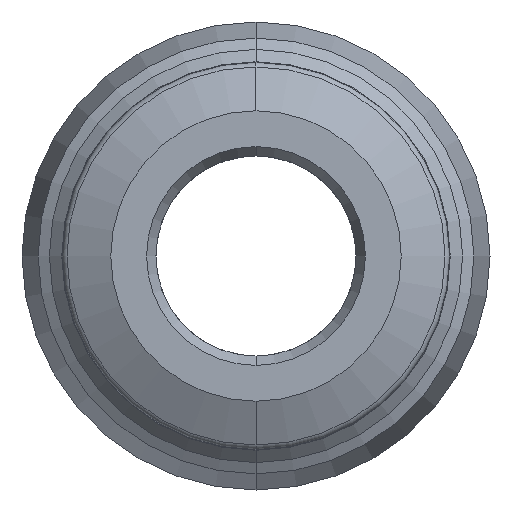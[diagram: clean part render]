
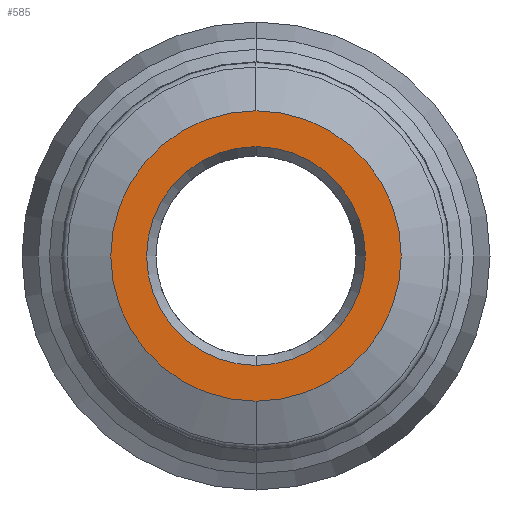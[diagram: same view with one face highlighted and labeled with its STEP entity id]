
A CAD part, front view. The second image highlights one B-rep face of the part: STEP entity #585.
In plain terms, the highlighted planar face has unit normal (0, -1, 0).
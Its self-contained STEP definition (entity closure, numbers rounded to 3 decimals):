
#6 = CARTESIAN_POINT ( 'NONE',  ( 0., -4.8, 3.389 ) ) ;
#45 = CARTESIAN_POINT ( 'NONE',  ( -4.499, -4.8, 0. ) ) ;
#109 = VERTEX_POINT ( 'NONE', #2973 ) ;
#277 = CARTESIAN_POINT ( 'NONE',  ( 0., -4.8, -3.389 ) ) ;
#576 = CIRCLE ( 'NONE', #916, 3.389 ) ;
#585 = ADVANCED_FACE ( 'NONE', ( #3486, #4354 ), #2231, .T. ) ;
#667 = EDGE_CURVE ( 'NONE', #1645, #2460, #576, .T. ) ;
#825 = ORIENTED_EDGE ( 'NONE', *, *, #1674, .T. ) ;
#909 = EDGE_LOOP ( 'NONE', ( #825, #936 ) ) ;
#910 = DIRECTION ( 'NONE',  ( 0., 0., 1. ) ) ;
#916 = AXIS2_PLACEMENT_3D ( 'NONE', #981, #1001, #1013 ) ;
#936 = ORIENTED_EDGE ( 'NONE', *, *, #667, .T. ) ;
#968 = DIRECTION ( 'NONE',  ( 0., -1., 0. ) ) ;
#981 = CARTESIAN_POINT ( 'NONE',  ( 0., -4.8, 0. ) ) ;
#1001 = DIRECTION ( 'NONE',  ( 0., 1., 0. ) ) ;
#1013 = DIRECTION ( 'NONE',  ( 0., 0., -1. ) ) ;
#1023 = CIRCLE ( 'NONE', #1602, 3.389 ) ;
#1144 = DIRECTION ( 'NONE',  ( 0., 0., -1. ) ) ;
#1342 = EDGE_LOOP ( 'NONE', ( #2838, #3973 ) ) ;
#1388 = VERTEX_POINT ( 'NONE', #2382 ) ;
#1407 = CIRCLE ( 'NONE', #2362, 4.499 ) ;
#1602 = AXIS2_PLACEMENT_3D ( 'NONE', #3250, #3930, #4140 ) ;
#1645 = VERTEX_POINT ( 'NONE', #277 ) ;
#1674 = EDGE_CURVE ( 'NONE', #2460, #1645, #1023, .T. ) ;
#2002 = EDGE_CURVE ( 'NONE', #109, #1388, #2868, .T. ) ;
#2231 = PLANE ( 'NONE',  #2635 ) ;
#2362 = AXIS2_PLACEMENT_3D ( 'NONE', #3174, #3543, #1144 ) ;
#2382 = CARTESIAN_POINT ( 'NONE',  ( 0., -4.8, 4.499 ) ) ;
#2460 = VERTEX_POINT ( 'NONE', #6 ) ;
#2635 = AXIS2_PLACEMENT_3D ( 'NONE', #45, #968, #910 ) ;
#2833 = EDGE_CURVE ( 'NONE', #1388, #109, #1407, .T. ) ;
#2838 = ORIENTED_EDGE ( 'NONE', *, *, #2002, .F. ) ;
#2868 = CIRCLE ( 'NONE', #3942, 4.499 ) ;
#2973 = CARTESIAN_POINT ( 'NONE',  ( 0., -4.8, -4.499 ) ) ;
#3174 = CARTESIAN_POINT ( 'NONE',  ( 0., -4.8, 0. ) ) ;
#3250 = CARTESIAN_POINT ( 'NONE',  ( 0., -4.8, 0. ) ) ;
#3486 = FACE_BOUND ( 'NONE', #909, .T. ) ;
#3543 = DIRECTION ( 'NONE',  ( 0., 1., 0. ) ) ;
#3706 = CARTESIAN_POINT ( 'NONE',  ( 0., -4.8, 0. ) ) ;
#3930 = DIRECTION ( 'NONE',  ( 0., 1., 0. ) ) ;
#3942 = AXIS2_PLACEMENT_3D ( 'NONE', #3706, #4310, #4282 ) ;
#3973 = ORIENTED_EDGE ( 'NONE', *, *, #2833, .F. ) ;
#4140 = DIRECTION ( 'NONE',  ( 0., 0., -1. ) ) ;
#4282 = DIRECTION ( 'NONE',  ( 0., 0., -1. ) ) ;
#4310 = DIRECTION ( 'NONE',  ( 0., 1., 0. ) ) ;
#4354 = FACE_OUTER_BOUND ( 'NONE', #1342, .T. ) ;
